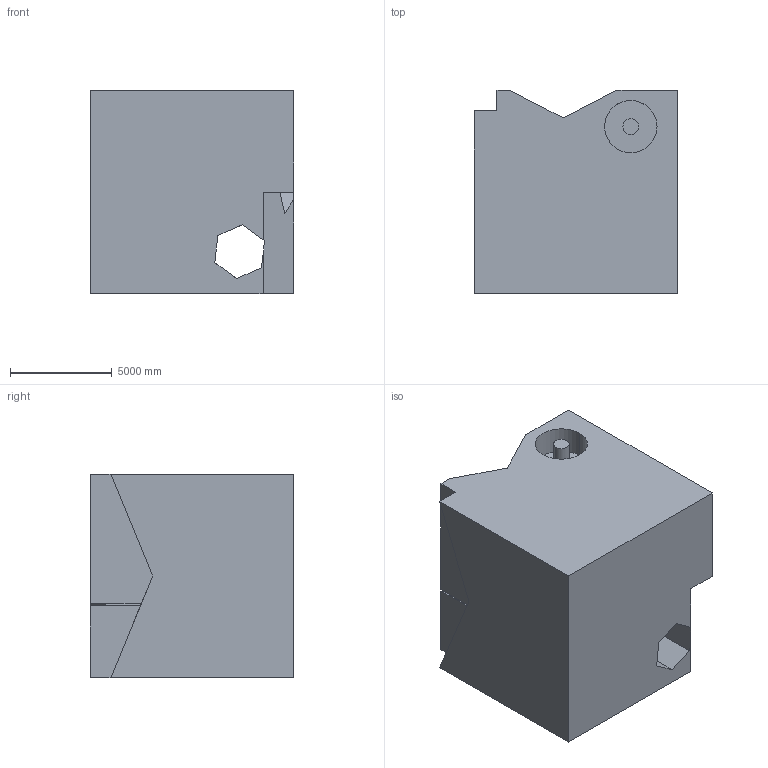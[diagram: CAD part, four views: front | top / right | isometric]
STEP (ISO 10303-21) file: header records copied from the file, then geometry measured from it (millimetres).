
FILE_DESCRIPTION (( 'STEP AP203' ), '1' );
FILE_NAME ('132.STEP', '2022-08-31T11:47:48', ( 'user' ), ( '' ), 'SwSTEP 2.0', 'SolidWorks 2021', '' );
FILE_SCHEMA (( 'CONFIG_CONTROL_DESIGN' ));
Length unit declared in the file: centimetre
Products named in the file (1): 132
Bounding box: 10000 x 10000 x 10000 mm (x, y, z)
Volume: 865450657487.3 mm3; surface area: 725826608.4 mm2
Topology: 1 solids, 1 shells, 36 faces, 102 edges, 68 vertices
Faces by surface type: plane 32, cylinder 4
Entity records: 1235 total; most frequent: CARTESIAN_POINT 207, ORIENTED_EDGE 204, DIRECTION 184, EDGE_CURVE 102, VECTOR 94, LINE 94, VERTEX_POINT 68, AXIS2_PLACEMENT_3D 45
